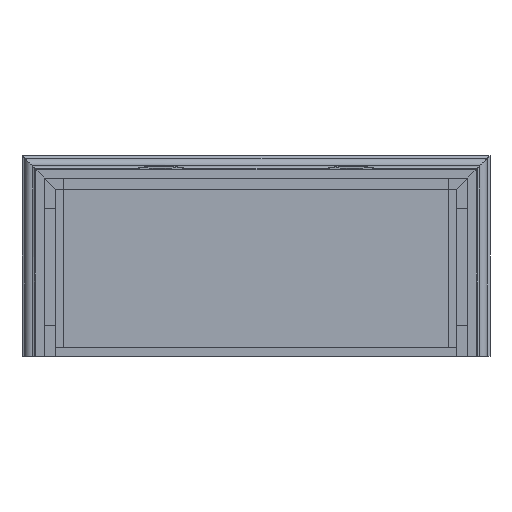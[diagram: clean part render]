
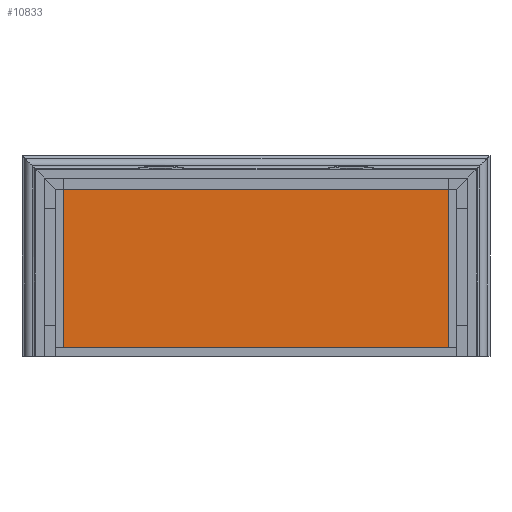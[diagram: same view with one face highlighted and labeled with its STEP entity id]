
A CAD part, front view. The second image highlights one B-rep face of the part: STEP entity #10833.
In plain terms, the highlighted planar face has unit normal (0, -1, 0).
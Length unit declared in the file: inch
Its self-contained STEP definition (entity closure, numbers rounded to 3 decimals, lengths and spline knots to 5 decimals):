
#2032=FACE_OUTER_BOUND('',#2712,.T.);
#2712=EDGE_LOOP('',(#8070,#8071,#8072,#8073));
#3330=LINE('',#16036,#4422);
#3331=LINE('',#16038,#4423);
#3332=LINE('',#16040,#4424);
#3333=LINE('',#16041,#4425);
#4422=VECTOR('',#13267,0.3937);
#4423=VECTOR('',#13268,0.3937);
#4424=VECTOR('',#13269,0.3937);
#4425=VECTOR('',#13270,0.3937);
#5546=VERTEX_POINT('',#16034);
#5547=VERTEX_POINT('',#16035);
#5548=VERTEX_POINT('',#16037);
#5549=VERTEX_POINT('',#16039);
#6494=EDGE_CURVE('',#5546,#5547,#3330,.T.);
#6495=EDGE_CURVE('',#5548,#5547,#3331,.T.);
#6496=EDGE_CURVE('',#5548,#5549,#3332,.T.);
#6497=EDGE_CURVE('',#5549,#5546,#3333,.T.);
#8070=ORIENTED_EDGE('',*,*,#6494,.T.);
#8071=ORIENTED_EDGE('',*,*,#6495,.F.);
#8072=ORIENTED_EDGE('',*,*,#6496,.T.);
#8073=ORIENTED_EDGE('',*,*,#6497,.T.);
#10260=PLANE('',#11957);
#10833=ADVANCED_FACE('',(#2032),#10260,.T.);
#11957=AXIS2_PLACEMENT_3D('',#16033,#13265,#13266);
#13265=DIRECTION('center_axis',(0.,-1.,0.));
#13266=DIRECTION('ref_axis',(1.,0.,0.));
#13267=DIRECTION('',(-1.,0.,0.));
#13268=DIRECTION('',(0.,0.,1.));
#13269=DIRECTION('',(1.,0.,0.));
#13270=DIRECTION('',(0.,0.,1.));
#16033=CARTESIAN_POINT('Origin',(0.75,4.,0.75));
#16034=CARTESIAN_POINT('',(35.25,4.,15.));
#16035=CARTESIAN_POINT('',(0.75,4.,15.));
#16036=CARTESIAN_POINT('',(9.375,4.,15.));
#16037=CARTESIAN_POINT('',(0.75,4.,0.75));
#16038=CARTESIAN_POINT('',(0.75,4.,0.75));
#16039=CARTESIAN_POINT('',(35.25,4.,0.75));
#16040=CARTESIAN_POINT('',(0.75,4.,0.75));
#16041=CARTESIAN_POINT('',(35.25,4.,0.75));
